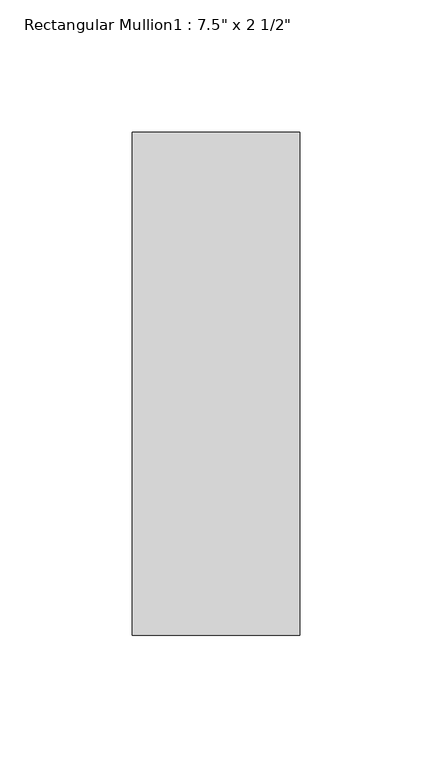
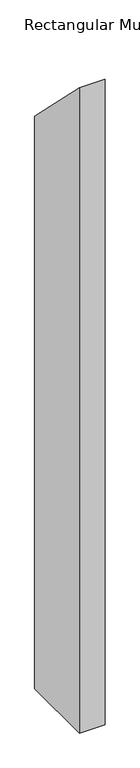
"""IFC4 building model written with IfcOpenShell, lengths in millimetres: member geometry."""

import ifcopenshell
import ifcopenshell.guid

model = None  # the IFC model being written
_history = None  # IfcOwnerHistory: only IFC2X3 demands one
_inside = {}  # id of a spatial element -> (the spatial element, [elements in it])
_under = {}  # id of a project, library or spatial element -> (it, [spatial elements below it])
_declared = {}  # id of a project -> (the project, [libraries it declares])
_typed = {}  # id of a type object -> (the type object, [elements of that type])
_made_of = {}  # id of a material, layer set ... -> (it, [elements and type objects made of it])


def new_model(schema):
    """Start an empty IFC model of exactly this schema.

    Asked for "IFC4X3", IfcOpenShell would pick the latest addendum, in which some entities
    have other attributes; the version numbers below select the first issue.
    IFC2X3 requires an IfcOwnerHistory on every rooted entity: one is made here for all.
    """
    global model, _history
    if schema == "IFC4X3":
        model = ifcopenshell.file(schema_version=(4, 3, 0, 0))
    else:
        model = ifcopenshell.file(schema=schema)
    _inside.clear()
    _under.clear()
    _declared.clear()
    _typed.clear()
    _made_of.clear()
    _history = None
    if model.schema == "IFC2X3":
        org = make("IfcOrganization", Name="unknown")
        user = make(
            "IfcPersonAndOrganization",
            ThePerson=make("IfcPerson", FamilyName="unknown"),
            TheOrganization=org,
        )
        app = make(
            "IfcApplication",
            ApplicationDeveloper=org,
            Version="unknown",
            ApplicationFullName="unknown",
            ApplicationIdentifier="unknown",
        )
        _history = make(
            "IfcOwnerHistory",
            OwningUser=user,
            OwningApplication=app,
            ChangeAction="ADDED",
            CreationDate=0,
        )
    return model


def make(cls, **values):
    """One entity of the class cls with the attributes given. An attribute that is None is left unset."""
    return model.create_entity(
        cls, **{name: value for name, value in values.items() if value is not None}
    )


def rooted(cls, **values):
    """An entity with a GlobalId (a new one), such as an element, a storey or a relation."""
    return make(cls, GlobalId=ifcopenshell.guid.new(), OwnerHistory=_history, **values)


def si_unit(unit_type, name, prefix=None):
    """IfcSIUnit, for example si_unit("LENGTHUNIT", "METRE", prefix="MILLI")."""
    return make("IfcSIUnit", UnitType=unit_type, Prefix=prefix, Name=name)


def assignment(units):
    """IfcUnitAssignment: the units of a project."""
    return None if units is None else make("IfcUnitAssignment", Units=units)


def point(xyz):
    """IfcCartesianPoint."""
    return None if xyz is None else make("IfcCartesianPoint", Coordinates=xyz)


def direction(xyz):
    """IfcDirection."""
    return None if xyz is None else make("IfcDirection", DirectionRatios=xyz)


def frame(location, z_axis=None, x_axis=None):
    """IfcAxis2Placement3D, a coordinate frame: its origin and axes. An axis left out is left unset."""
    return make(
        "IfcAxis2Placement3D",
        Location=point(location),
        Axis=direction(z_axis),
        RefDirection=direction(x_axis),
    )


def origin():
    """The frame at (0, 0, 0) with its axes left unset."""
    return frame((0.0, 0.0, 0.0))


def place(relative_to, where):
    """IfcLocalPlacement: puts the frame where relative to a parent placement (None: the world)."""
    return make(
        "IfcLocalPlacement", PlacementRelTo=relative_to, RelativePlacement=where
    )


def context(
    kind, dimensions, precision=None, world=None, true_north=None, identifier=None
):
    """IfcGeometricRepresentationContext, for example the 3D "Model" context."""
    return make(
        "IfcGeometricRepresentationContext",
        ContextIdentifier=identifier,
        ContextType=kind,
        CoordinateSpaceDimension=dimensions,
        Precision=precision,
        WorldCoordinateSystem=world,
        TrueNorth=true_north,
    )


def project(units=None, contexts=None):
    """IfcProject with its units and contexts."""
    return rooted(
        "IfcProject",
        Name="project",
        RepresentationContexts=contexts,
        UnitsInContext=assignment(units),
    )


def spatial(cls, under=None, at=None, **own):
    """A site, building, storey or space (cls), placed at a placement, below another one or the project."""
    s = rooted(cls, ObjectPlacement=at, **own)
    if under is not None:
        _under.setdefault(under.id(), (under, []))[1].append(s)
    return s


def polyline(points):
    """IfcPolyline through the points."""
    return make("IfcPolyline", Points=[point(p) for p in points])


def outline(outer, holes=None, kind="AREA"):
    """IfcArbitraryClosedProfileDef: a profile drawn as a closed curve; with holes, ...WithVoids."""
    if holes is None:
        return make("IfcArbitraryClosedProfileDef", ProfileType=kind, OuterCurve=outer)
    return make(
        "IfcArbitraryProfileDefWithVoids",
        ProfileType=kind,
        OuterCurve=outer,
        InnerCurves=holes,
    )


def extrude(swept, where, along, depth):
    """IfcExtrudedAreaSolid: the profile swept, set in the frame where, extruded along a direction by depth."""
    return make(
        "IfcExtrudedAreaSolid",
        SweptArea=swept,
        Position=where,
        ExtrudedDirection=direction(along),
        Depth=depth,
    )


def shape(context_of_items, identifier, shape_type, items):
    """IfcShapeRepresentation: the items that make up one representation, for example the "Body"."""
    return make(
        "IfcShapeRepresentation",
        ContextOfItems=context_of_items,
        RepresentationIdentifier=identifier,
        RepresentationType=shape_type,
        Items=items,
    )


def source(mapping_origin, context_of_items, identifier, shape_type, items):
    """IfcRepresentationMap: a shape defined once, which mapped items show again and again."""
    return make(
        "IfcRepresentationMap",
        MappingOrigin=mapping_origin,
        MappedRepresentation=shape(context_of_items, identifier, shape_type, items),
    )


def transform(
    local_origin,
    x_axis=None,
    y_axis=None,
    z_axis=None,
    scale=None,
    scale2=None,
    scale3=None,
    uniform=True,
):
    """IfcCartesianTransformationOperator3D, or its non-uniform kind. x_axis, y_axis, z_axis: its Axis1, 2, 3."""
    if uniform:
        return make(
            "IfcCartesianTransformationOperator3D",
            Axis1=direction(x_axis),
            Axis2=direction(y_axis),
            LocalOrigin=point(local_origin),
            Scale=scale,
            Axis3=direction(z_axis),
        )
    return make(
        "IfcCartesianTransformationOperator3DnonUniform",
        Axis1=direction(x_axis),
        Axis2=direction(y_axis),
        LocalOrigin=point(local_origin),
        Scale=scale,
        Axis3=direction(z_axis),
        Scale2=scale2,
        Scale3=scale3,
    )


def mapped(mapping_source, mapping_target):
    """IfcMappedItem: shows the shape of a source again, moved by a transform."""
    return make(
        "IfcMappedItem", MappingSource=mapping_source, MappingTarget=mapping_target
    )


def made_of(thing, what):
    """Note that an element or type object is made of a material, layer set ...; save() writes the relation."""
    if what is not None:
        _made_of.setdefault(what.id(), (what, []))[1].append(thing)
    return thing


def element(
    cls,
    number,
    at=None,
    inside=None,
    cuts=None,
    type_object=None,
    material=None,
    context=None,
    identifier="Body",
    shape_type=None,
    held_by="IfcProductDefinitionShape",
    body=None,
    shapes=None,
    **own,
):
    """One element of the class cls, such as IfcWall. Its Tag is "e" and its number.

    at: its placement. inside: the storey or other place that contains it. cuts: it is an
    opening in that element (IfcRelVoidsElement). A single representation is given by context,
    identifier, shape_type and body (its items); several are given by shapes. held_by: the class
    of the entity that holds the representations. save() writes the other relations.
    """
    e = rooted(cls, Tag="e%d" % number, ObjectPlacement=at, **own)
    if body is not None:
        shapes = [shape(context, identifier, shape_type, body)]
    if shapes is not None:
        e.Representation = make(held_by, Representations=shapes)
    if inside is not None:
        _inside.setdefault(inside.id(), (inside, []))[1].append(e)
    if cuts is not None:
        rooted(
            "IfcRelVoidsElement", RelatingBuildingElement=cuts, RelatedOpeningElement=e
        )
    if type_object is not None:
        _typed.setdefault(type_object.id(), (type_object, []))[1].append(e)
    return made_of(e, material)


def aggregate(whole, parts):
    """IfcRelAggregates: a whole, such as a stair, and the parts it consists of."""
    return rooted("IfcRelAggregates", RelatingObject=whole, RelatedObjects=parts)


def save(model, path):
    """Write the relations noted so far, then the file.

    IfcRelAggregates (storeys below a building ...), IfcRelContainedInSpatialStructure (elements
    in a storey), IfcRelDefinesByType, IfcRelAssociatesMaterial and IfcRelDeclares: one each for
    every whole, place, type object, material and project.
    """
    for whole, parts in _under.values():
        aggregate(whole, parts)
    for where, things in _inside.values():
        rooted(
            "IfcRelContainedInSpatialStructure",
            RelatedElements=things,
            RelatingStructure=where,
        )
    for kind, things in _typed.values():
        rooted("IfcRelDefinesByType", RelatedObjects=things, RelatingType=kind)
    for what, things in _made_of.values():
        rooted("IfcRelAssociatesMaterial", RelatedObjects=things, RelatingMaterial=what)
    for by, libraries in _declared.values():
        rooted("IfcRelDeclares", RelatingContext=by, RelatedDefinitions=libraries)
    model.write(path)


def member_2983c28c(model_context):
    return source(origin(), model_context, "Body", "SweptSolid", [
        extrude(outline(polyline([(-25.4, 25.4), (165.1, -165.1), (165.1, -1657.35), (-25.4, -1657.35), (-25.4, 25.4)])), frame((-31.75, 0.0, 0.0), z_axis=(1.0, 0.0, 0.0), x_axis=(0.0, 1.0, 0.0)), (0.0, 0.0, 1.0), 63.5),
    ])


if __name__ == "__main__":
    model = new_model("IFC4")
    model_context = context("Model", 3, world=origin())
    ifc_project = project(units=[si_unit("LENGTHUNIT", "METRE", prefix="MILLI")], contexts=[model_context])
    site = spatial("IfcSite", under=ifc_project)
    building = spatial("IfcBuilding", under=site)
    placement = place(None, origin())
    member_shape = member_2983c28c(model_context)
    element("IfcMember", 1, ObjectType="Rectangular Mullion1 : 7.5\" x 2 1/2\"", at=placement, inside=building, context=model_context, shape_type="MappedRepresentation", body=[
        mapped(member_shape, transform((0.0, 0.0, 0.0), x_axis=(1.0, 0.0, 0.0), y_axis=(0.0, 1.0, 0.0), z_axis=(0.0, 0.0, 1.0))),
    ])
    save(model, "model.ifc")
